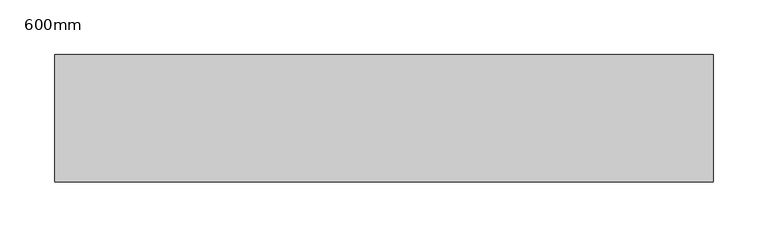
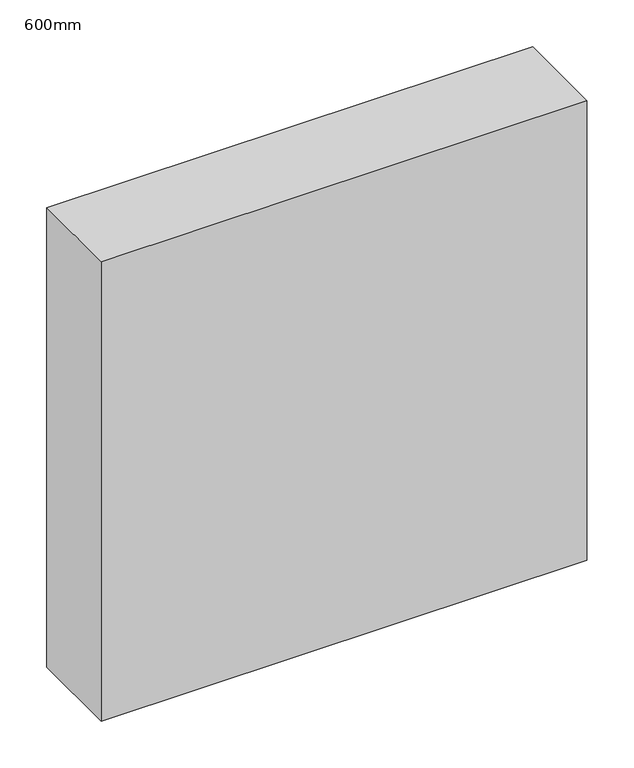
"""IFC4 building model written with IfcOpenShell, lengths in millimetres: proxy geometry, HVAC_Heaters_Zeppelin-Rental-GmbH_600 : 600mm."""

from ifc_helpers import new_model, si_unit, frame, origin, place, context, project, spatial, polyline, outline, extrude, source, transform, mapped, element, save


def proxy_600mm_4d415156(model_context):
    return source(origin(), model_context, "Body", "SweptSolid", [
        extrude(outline(polyline([(425.0, -168.0), (-175.0, -168.0), (-175.0, -52.0), (425.0, -52.0), (425.0, -168.0)])), frame((0.0, 0.0, 160.0), z_axis=(0.0, 0.0, 1.0), x_axis=(1.0, 0.0, 0.0)), (0.0, 0.0, 1.0), 600.0),
    ])


if __name__ == "__main__":
    model = new_model("IFC4")
    model_context = context("Model", 3, world=origin())
    ifc_project = project(units=[si_unit("LENGTHUNIT", "METRE", prefix="MILLI")], contexts=[model_context])
    site = spatial("IfcSite", under=ifc_project)
    building = spatial("IfcBuilding", under=site)
    placement = place(None, origin())
    proxy_600mm_shape = proxy_600mm_4d415156(model_context)
    element("IfcBuildingElementProxy", 1, Name="HVAC_Heaters_Zeppelin-Rental-GmbH_600 : 600mm", ObjectType="HVAC_Heaters_Zeppelin-Rental-GmbH_600 : 600mm", at=placement, inside=building, context=model_context, shape_type="MappedRepresentation", body=[
        mapped(proxy_600mm_shape, transform((0.0, 0.0, 0.0), x_axis=(1.0, 0.0, 0.0), y_axis=(0.0, 1.0, 0.0), z_axis=(0.0, 0.0, 1.0))),
    ])
    save(model, "model.ifc")
